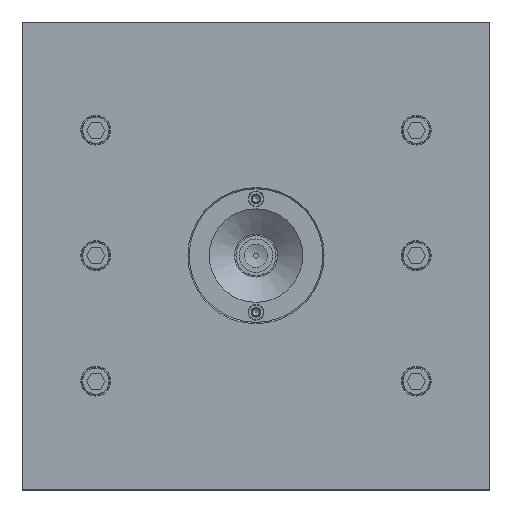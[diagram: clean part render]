
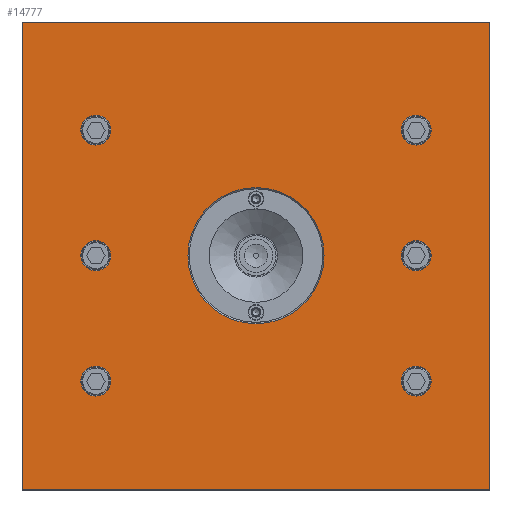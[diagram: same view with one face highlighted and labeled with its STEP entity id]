
A CAD part, top view. The second image highlights one B-rep face of the part: STEP entity #14777.
In plain terms, the highlighted planar face has unit normal (0, 0, 1).
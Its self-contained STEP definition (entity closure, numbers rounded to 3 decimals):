
#1367=LINE('',#48566,#2579);
#1368=LINE('',#48569,#2580);
#1369=LINE('',#48571,#2581);
#1370=LINE('',#48573,#2582);
#2579=VECTOR('',#41139,1.);
#2580=VECTOR('',#41140,1.);
#2581=VECTOR('',#41141,1.);
#2582=VECTOR('',#41142,1.);
#12174=PLANE('',#34581);
#13234=FACE_OUTER_BOUND('',#19919,.T.);
#14777=ADVANCED_FACE('',(#17173,#13234,#17174,#17175,#17176,#17177,#17178,
#17179),#12174,.F.);
#17173=FACE_BOUND('',#19918,.T.);
#17174=FACE_BOUND('',#19920,.T.);
#17175=FACE_BOUND('',#19921,.T.);
#17176=FACE_BOUND('',#19922,.T.);
#17177=FACE_BOUND('',#19923,.T.);
#17178=FACE_BOUND('',#19924,.T.);
#17179=FACE_BOUND('',#19925,.T.);
#19918=EDGE_LOOP('',(#24930));
#19919=EDGE_LOOP('',(#24931,#24932,#24933,#24934));
#19920=EDGE_LOOP('',(#24935));
#19921=EDGE_LOOP('',(#24936));
#19922=EDGE_LOOP('',(#24937));
#19923=EDGE_LOOP('',(#24938));
#19924=EDGE_LOOP('',(#24939));
#19925=EDGE_LOOP('',(#24940));
#24930=ORIENTED_EDGE('',*,*,#30321,.T.);
#24931=ORIENTED_EDGE('',*,*,#30322,.F.);
#24932=ORIENTED_EDGE('',*,*,#30323,.F.);
#24933=ORIENTED_EDGE('',*,*,#30324,.F.);
#24934=ORIENTED_EDGE('',*,*,#30325,.F.);
#24935=ORIENTED_EDGE('',*,*,#30326,.F.);
#24936=ORIENTED_EDGE('',*,*,#30327,.F.);
#24937=ORIENTED_EDGE('',*,*,#30328,.F.);
#24938=ORIENTED_EDGE('',*,*,#30329,.F.);
#24939=ORIENTED_EDGE('',*,*,#30330,.F.);
#24940=ORIENTED_EDGE('',*,*,#30331,.F.);
#27700=VERTEX_POINT('',#48565);
#27701=VERTEX_POINT('',#48567);
#27702=VERTEX_POINT('',#48568);
#27703=VERTEX_POINT('',#48570);
#27704=VERTEX_POINT('',#48572);
#27705=VERTEX_POINT('',#48575);
#27706=VERTEX_POINT('',#48577);
#27707=VERTEX_POINT('',#48579);
#27708=VERTEX_POINT('',#48581);
#27709=VERTEX_POINT('',#48583);
#27710=VERTEX_POINT('',#48585);
#30321=EDGE_CURVE('',#27700,#27700,#31842,.T.);
#30322=EDGE_CURVE('',#27701,#27702,#1367,.T.);
#30323=EDGE_CURVE('',#27703,#27701,#1368,.T.);
#30324=EDGE_CURVE('',#27704,#27703,#1369,.T.);
#30325=EDGE_CURVE('',#27702,#27704,#1370,.T.);
#30326=EDGE_CURVE('',#27705,#27705,#31843,.T.);
#30327=EDGE_CURVE('',#27706,#27706,#31844,.T.);
#30328=EDGE_CURVE('',#27707,#27707,#31845,.T.);
#30329=EDGE_CURVE('',#27708,#27708,#31846,.T.);
#30330=EDGE_CURVE('',#27709,#27709,#31847,.T.);
#30331=EDGE_CURVE('',#27710,#27710,#31848,.T.);
#31842=CIRCLE('',#34574,51.);
#31843=CIRCLE('',#34575,11.2);
#31844=CIRCLE('',#34576,11.2);
#31845=CIRCLE('',#34577,11.2);
#31846=CIRCLE('',#34578,11.2);
#31847=CIRCLE('',#34579,11.2);
#31848=CIRCLE('',#34580,11.2);
#34574=AXIS2_PLACEMENT_3D('',#48564,#41137,#41138);
#34575=AXIS2_PLACEMENT_3D('',#48574,#41143,#41144);
#34576=AXIS2_PLACEMENT_3D('',#48576,#41145,#41146);
#34577=AXIS2_PLACEMENT_3D('',#48578,#41147,#41148);
#34578=AXIS2_PLACEMENT_3D('',#48580,#41149,#41150);
#34579=AXIS2_PLACEMENT_3D('',#48582,#41151,#41152);
#34580=AXIS2_PLACEMENT_3D('',#48584,#41153,#41154);
#34581=AXIS2_PLACEMENT_3D('',#48586,#41155,#41156);
#41137=DIRECTION('',(0.,0.,-1.));
#41138=DIRECTION('',(-1.,0.,0.));
#41139=DIRECTION('',(-1.,0.,0.));
#41140=DIRECTION('',(0.,-1.,0.));
#41141=DIRECTION('',(1.,0.,0.));
#41142=DIRECTION('',(0.,1.,0.));
#41143=DIRECTION('',(0.,0.,1.));
#41144=DIRECTION('',(1.,0.,0.));
#41145=DIRECTION('',(0.,0.,1.));
#41146=DIRECTION('',(1.,0.,0.));
#41147=DIRECTION('',(0.,0.,1.));
#41148=DIRECTION('',(1.,0.,0.));
#41149=DIRECTION('',(0.,0.,1.));
#41150=DIRECTION('',(1.,0.,0.));
#41151=DIRECTION('',(0.,0.,1.));
#41152=DIRECTION('',(1.,0.,0.));
#41153=DIRECTION('',(0.,0.,1.));
#41154=DIRECTION('',(1.,0.,0.));
#41155=DIRECTION('',(0.,0.,-1.));
#41156=DIRECTION('',(-1.,0.,0.));
#48564=CARTESIAN_POINT('',(0.,0.,
115.));
#48565=CARTESIAN_POINT('',(-51.,0.,115.));
#48566=CARTESIAN_POINT('',(175.,-175.,115.));
#48567=CARTESIAN_POINT('',(175.,-175.,115.));
#48568=CARTESIAN_POINT('',(-175.,-175.,115.));
#48569=CARTESIAN_POINT('',(175.,175.,115.));
#48570=CARTESIAN_POINT('',(175.,175.,115.));
#48571=CARTESIAN_POINT('',(-175.,175.,115.));
#48572=CARTESIAN_POINT('',(-175.,175.,115.));
#48573=CARTESIAN_POINT('',(-175.,-175.,115.));
#48574=CARTESIAN_POINT('',(-120.,94.,115.));
#48575=CARTESIAN_POINT('',(-108.8,94.,115.));
#48576=CARTESIAN_POINT('',(-120.,-94.,115.));
#48577=CARTESIAN_POINT('',(-108.8,-94.,115.));
#48578=CARTESIAN_POINT('',(120.,-94.,115.));
#48579=CARTESIAN_POINT('',(131.2,-94.,115.));
#48580=CARTESIAN_POINT('',(120.,94.,115.));
#48581=CARTESIAN_POINT('',(131.2,94.,115.));
#48582=CARTESIAN_POINT('',(-120.,0.,115.));
#48583=CARTESIAN_POINT('',(-108.8,0.,115.));
#48584=CARTESIAN_POINT('',(120.,0.,115.));
#48585=CARTESIAN_POINT('',(131.2,0.,115.));
#48586=CARTESIAN_POINT('',(-175.,-175.,115.));
